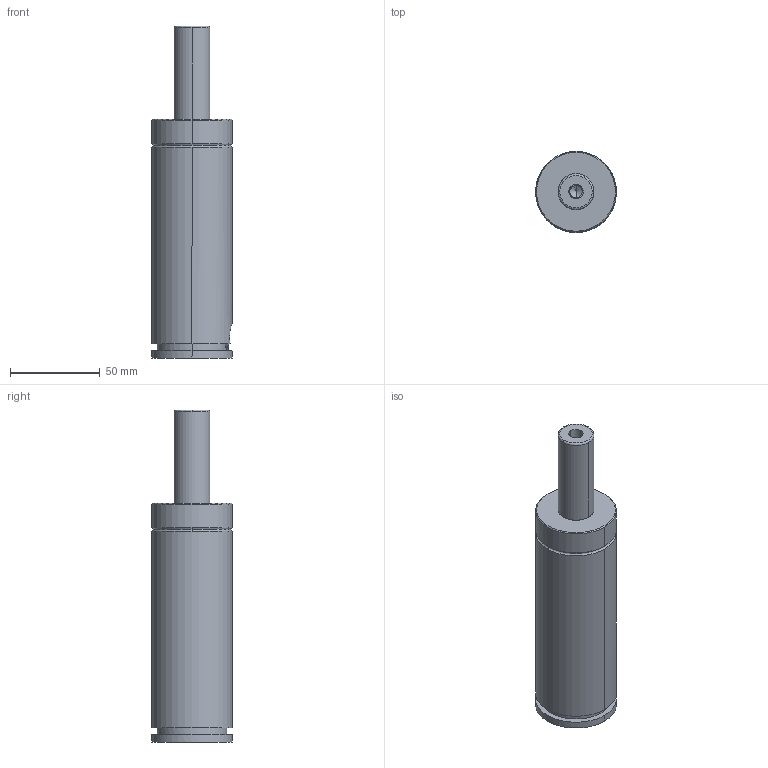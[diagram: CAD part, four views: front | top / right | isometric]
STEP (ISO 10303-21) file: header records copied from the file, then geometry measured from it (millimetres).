
FILE_DESCRIPTION(('CATIA V5 STEP Exchange'),'2;1');
FILE_NAME('W:\CATALOGO GENERAL 2018\FICHEROS CAD\004-TPS\TPS 500.2\TPS 500x50.2.stp','2017-10-31T14:29:21+00:00',('none'),('none'),'CATIA Version 5 Release 17 (IN-10)','CATIA V5 STEP AP203','none');
FILE_SCHEMA(('CONFIG_CONTROL_DESIGN'));
Length unit declared in the file: millimetre
Products named in the file (1): TPS 500x50.2
Bounding box: 45 x 45 x 185 mm (x, y, z)
Volume: 207774.8 mm3; surface area: 32008.2 mm2
Topology: 3 solids, 3 shells, 63 faces, 149 edges, 98 vertices
Faces by surface type: cylinder 29, plane 22, torus 6, cone 6
Entity records: 2239 total; most frequent: CARTESIAN_POINT 817, ORIENTED_EDGE 294, DIRECTION 239, EDGE_CURVE 147, AXIS2_PLACEMENT_3D 121, VERTEX_POINT 98, EDGE_LOOP 71, ADVANCED_FACE 63
